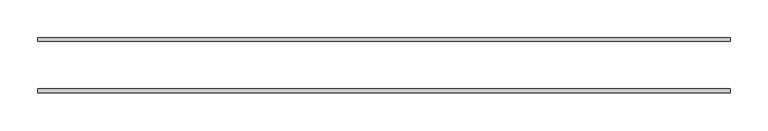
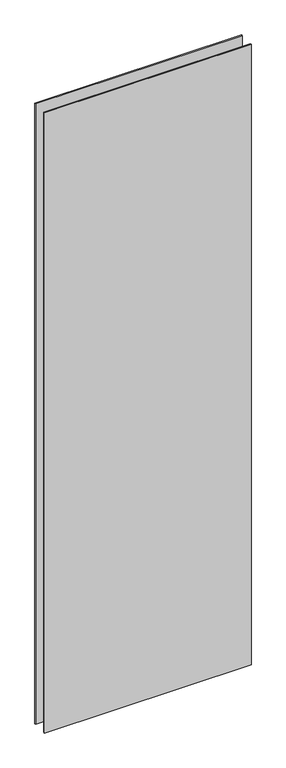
"""IFC4 building model written with IfcOpenShell, lengths in millimetres: plate geometry, VERTI PANORAMA - prosklená výplň : Prosklená výplň."""

from ifc_helpers import new_model, si_unit, origin, origin_with_axes, place, context, project, spatial, polyline, outline, extrude, source, transform, mapped, element, save


def plate_0b104050(model_context):
    return source(origin(), model_context, "Body", "SweptSolid", [
        extrude(outline(polyline([(460.0, 36.5), (460.0, 31.5), (-460.0, 31.5), (-460.0, 36.5), (460.0, 36.5)])), origin_with_axes(), (0.0, 0.0, 1.0), 2920.0),
        extrude(outline(polyline([(460.0, -31.5), (460.0, -36.5), (-460.0, -36.5), (-460.0, -31.5), (460.0, -31.5)])), origin_with_axes(), (0.0, 0.0, 1.0), 2920.0),
    ])


if __name__ == "__main__":
    model = new_model("IFC4")
    model_context = context("Model", 3, world=origin())
    ifc_project = project(units=[si_unit("LENGTHUNIT", "METRE", prefix="MILLI")], contexts=[model_context])
    site = spatial("IfcSite", under=ifc_project)
    building = spatial("IfcBuilding", under=site)
    placement = place(None, origin())
    plate_shape = plate_0b104050(model_context)
    element("IfcPlate", 1, ObjectType="VERTI PANORAMA - prosklená výplň : Prosklená výplň", at=placement, inside=building, context=model_context, shape_type="MappedRepresentation", body=[
        mapped(plate_shape, transform((0.0, 0.0, 0.0), x_axis=(1.0, 0.0, 0.0), y_axis=(0.0, 1.0, 0.0), z_axis=(0.0, 0.0, 1.0))),
    ])
    save(model, "model.ifc")
